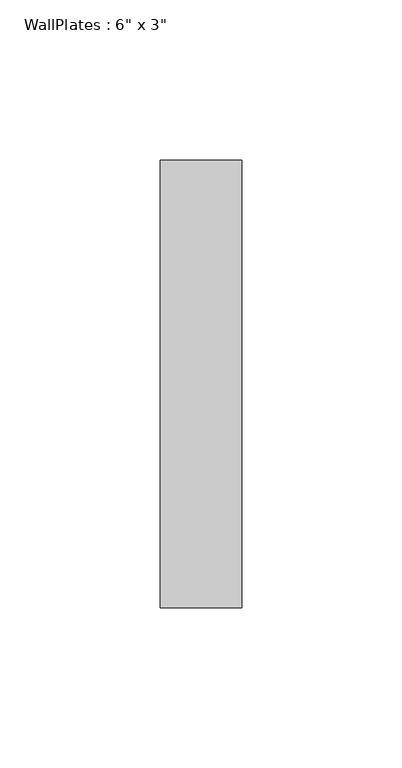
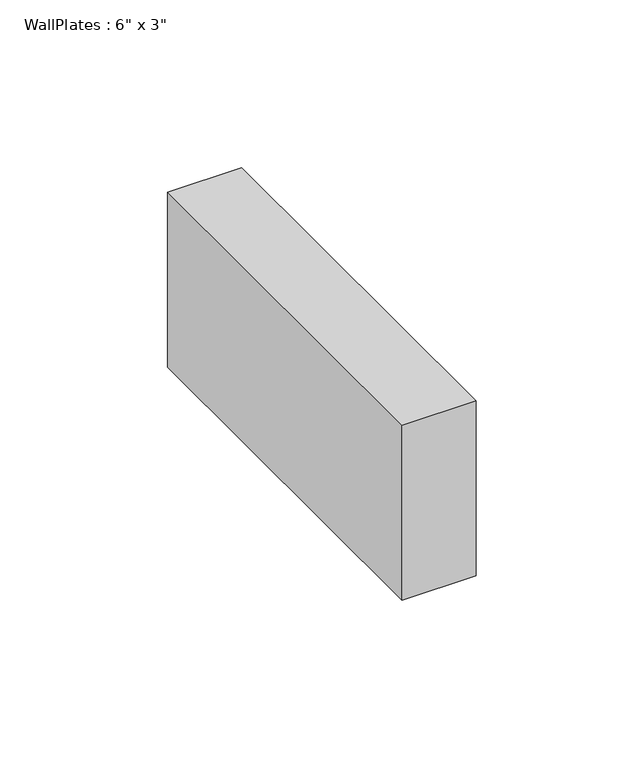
"""IFC4 building model written with IfcOpenShell, lengths in millimetres: beam geometry."""

from ifc_helpers import new_model, si_unit, frame, origin, place, context, project, spatial, polyline, outline, extrude, source, transform, mapped, element, save


def beam_3f8316e0(model_context):
    return source(origin(), model_context, "Body", "SweptSolid", [
        extrude(outline(polyline([(-12.705, -69.85), (-12.705, 69.85), (12.705, 69.85), (12.705, -69.85), (-12.705, -69.85)])), frame((0.0, 0.0, -31.75), z_axis=(0.0, 0.0, 1.0), x_axis=(1.0, 0.0, 0.0)), (0.0, 0.0, 1.0), 63.5),
    ])


if __name__ == "__main__":
    model = new_model("IFC4")
    model_context = context("Model", 3, world=origin())
    ifc_project = project(units=[si_unit("LENGTHUNIT", "METRE", prefix="MILLI")], contexts=[model_context])
    site = spatial("IfcSite", under=ifc_project)
    building = spatial("IfcBuilding", under=site)
    placement = place(None, origin())
    beam_shape = beam_3f8316e0(model_context)
    element("IfcBeam", 1, ObjectType="WallPlates : 6\" x 3\"", at=placement, inside=building, context=model_context, shape_type="MappedRepresentation", body=[
        mapped(beam_shape, transform((0.0, 0.0, 0.0), x_axis=(1.0, 0.0, 0.0), y_axis=(0.0, 1.0, 0.0), z_axis=(0.0, 0.0, 1.0))),
    ])
    save(model, "model.ifc")
